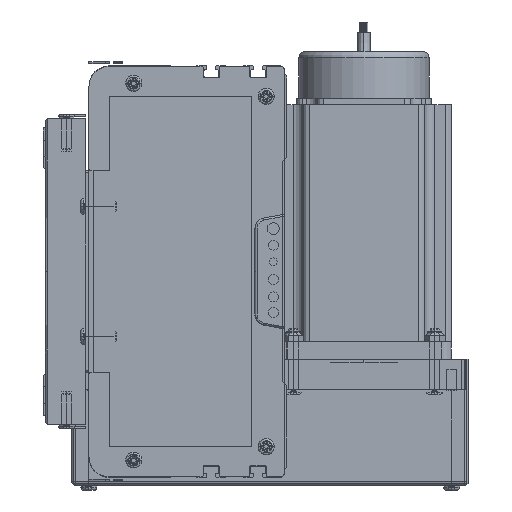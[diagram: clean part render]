
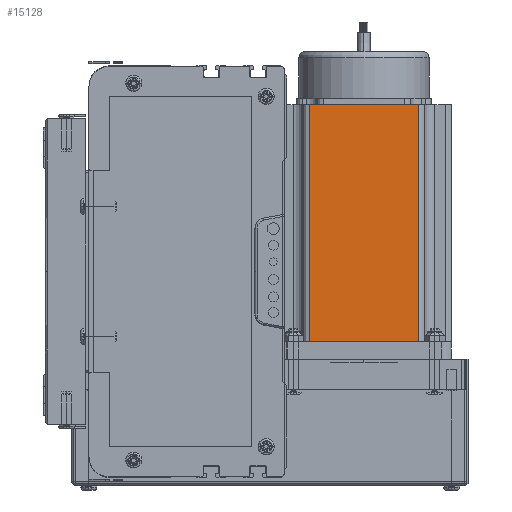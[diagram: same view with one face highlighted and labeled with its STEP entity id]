
A CAD part, left-side view. The second image highlights one B-rep face of the part: STEP entity #15128.
In plain terms, the highlighted planar face has unit normal (-1, 0, 0) as drawn and (0, -1, 0) by its records, which use the part's own axes.
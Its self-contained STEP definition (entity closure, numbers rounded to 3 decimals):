
#15035 = EDGE_CURVE ( 'NONE', #15037, #15238, #66822, .T. ) ;
#15037 = VERTEX_POINT ( 'NONE', #66234 ) ;
#15128 = ADVANCED_FACE ( 'NONE', ( #67482 ), #66965, .F. ) ;
#15133 = ORIENTED_EDGE ( 'NONE', *, *, #15154, .F. ) ;
#15148 = EDGE_LOOP ( 'NONE', ( #15265, #15217, #15133, #15363 ) ) ;
#15154 = EDGE_CURVE ( 'NONE', #15037, #15428, #66956, .T. ) ;
#15217 = ORIENTED_EDGE ( 'NONE', *, *, #15380, .T. ) ;
#15238 = VERTEX_POINT ( 'NONE', #68212 ) ;
#15240 = VERTEX_POINT ( 'NONE', #68277 ) ;
#15246 = EDGE_CURVE ( 'NONE', #15238, #15240, #67838, .T. ) ;
#15265 = ORIENTED_EDGE ( 'NONE', *, *, #15246, .T. ) ;
#15363 = ORIENTED_EDGE ( 'NONE', *, *, #15035, .T. ) ;
#15380 = EDGE_CURVE ( 'NONE', #15240, #15428, #68677, .T. ) ;
#15428 = VERTEX_POINT ( 'NONE', #69552 ) ;
#65999 = CARTESIAN_POINT ( 'NONE',  ( 16.16, 0., 116.5 ) ) ;
#66070 = DIRECTION ( 'NONE',  ( 0., 0., 1. ) ) ;
#66087 = VECTOR ( 'NONE', #66070, 1000. ) ;
#66234 = CARTESIAN_POINT ( 'NONE',  ( 16.16, 0., 116.5 ) ) ;
#66236 = DIRECTION ( 'NONE',  ( 0., 0., -1. ) ) ;
#66240 = VECTOR ( 'NONE', #66236, 1000. ) ;
#66822 = LINE ( 'NONE', #65999, #66240 ) ;
#66908 = DIRECTION ( 'NONE',  ( 1., 0., 0. ) ) ;
#66910 = VECTOR ( 'NONE', #66908, 1000. ) ;
#66913 = CARTESIAN_POINT ( 'NONE',  ( 0., 0., 116.5 ) ) ;
#66956 = LINE ( 'NONE', #66913, #66910 ) ;
#66965 = PLANE ( 'NONE',  #67075 ) ;
#67075 = AXIS2_PLACEMENT_3D ( 'NONE', #67361, #67373, #67371 ) ;
#67361 = CARTESIAN_POINT ( 'NONE',  ( 0., 0., 116.5 ) ) ;
#67371 = DIRECTION ( 'NONE',  ( 0., 0., 1. ) ) ;
#67373 = DIRECTION ( 'NONE',  ( 0., 1., 0. ) ) ;
#67482 = FACE_OUTER_BOUND ( 'NONE', #15148, .T. ) ;
#67837 = CARTESIAN_POINT ( 'NONE',  ( 0., 0., 0. ) ) ;
#67838 = LINE ( 'NONE', #67837, #68337 ) ;
#68212 = CARTESIAN_POINT ( 'NONE',  ( 16.16, 0., 0. ) ) ;
#68277 = CARTESIAN_POINT ( 'NONE',  ( 69.74, 0., 0. ) ) ;
#68335 = DIRECTION ( 'NONE',  ( 1., 0., 0. ) ) ;
#68337 = VECTOR ( 'NONE', #68335, 1000. ) ;
#68675 = CARTESIAN_POINT ( 'NONE',  ( 69.74, 0., 116.5 ) ) ;
#68677 = LINE ( 'NONE', #68675, #66087 ) ;
#69552 = CARTESIAN_POINT ( 'NONE',  ( 69.74, 0., 116.5 ) ) ;
